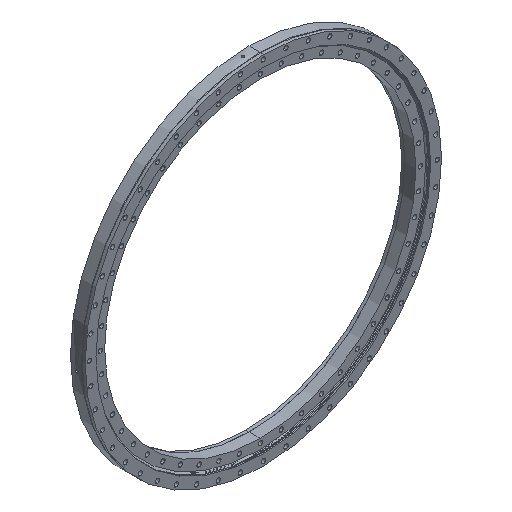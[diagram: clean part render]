
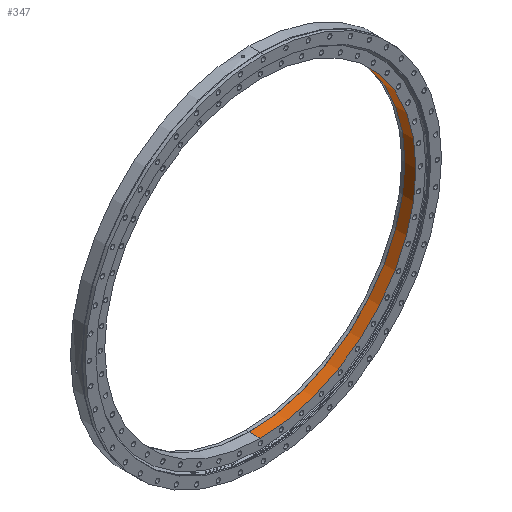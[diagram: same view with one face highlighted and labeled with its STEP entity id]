
A CAD part, isometric view. The second image highlights one B-rep face of the part: STEP entity #347.
In plain terms, the highlighted cylindrical face has radius 510 mm (diameter 1020 mm), a partial arc.
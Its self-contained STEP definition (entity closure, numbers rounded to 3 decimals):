
#89 = CARTESIAN_POINT ( 'NONE',  ( 0., 45.134, -510. ) ) ;
#326 = DIRECTION ( 'NONE',  ( 0., -1., 0. ) ) ;
#347 = ADVANCED_FACE ( 'NONE', ( #8019 ), #8932, .F. ) ;
#605 = VERTEX_POINT ( 'NONE', #6110 ) ;
#818 = CIRCLE ( 'NONE', #3433, 510. ) ;
#1289 = ORIENTED_EDGE ( 'NONE', *, *, #7085, .F. ) ;
#1389 = EDGE_CURVE ( 'NONE', #1890, #9651, #6279, .T. ) ;
#1412 = ORIENTED_EDGE ( 'NONE', *, *, #4447, .T. ) ;
#1890 = VERTEX_POINT ( 'NONE', #2886 ) ;
#1926 = AXIS2_PLACEMENT_3D ( 'NONE', #5919, #9047, #5874 ) ;
#1931 = DIRECTION ( 'NONE',  ( 0., -1., 0. ) ) ;
#2212 = VECTOR ( 'NONE', #2304, 1000. ) ;
#2304 = DIRECTION ( 'NONE',  ( 0., -1., 0. ) ) ;
#2574 = CARTESIAN_POINT ( 'NONE',  ( 0., 45.134, 0. ) ) ;
#2613 = CARTESIAN_POINT ( 'NONE',  ( 0., 0., 0. ) ) ;
#2886 = CARTESIAN_POINT ( 'NONE',  ( 0., 45.134, 510. ) ) ;
#3134 = VECTOR ( 'NONE', #7636, 1000. ) ;
#3380 = DIRECTION ( 'NONE',  ( 0., 0., -1. ) ) ;
#3407 = CIRCLE ( 'NONE', #1926, 510. ) ;
#3433 = AXIS2_PLACEMENT_3D ( 'NONE', #2574, #326, #5678 ) ;
#3455 = ORIENTED_EDGE ( 'NONE', *, *, #9042, .T. ) ;
#3618 = LINE ( 'NONE', #6924, #3134 ) ;
#4447 = EDGE_CURVE ( 'NONE', #605, #9651, #3407, .T. ) ;
#4529 = EDGE_LOOP ( 'NONE', ( #5347, #1289, #3455, #1412 ) ) ;
#5060 = VERTEX_POINT ( 'NONE', #89 ) ;
#5347 = ORIENTED_EDGE ( 'NONE', *, *, #1389, .F. ) ;
#5478 = CARTESIAN_POINT ( 'NONE',  ( 0., 9.134, 510. ) ) ;
#5678 = DIRECTION ( 'NONE',  ( 0., 0., -1. ) ) ;
#5874 = DIRECTION ( 'NONE',  ( 0., 0., -1. ) ) ;
#5919 = CARTESIAN_POINT ( 'NONE',  ( 0., 9.134, 0. ) ) ;
#5973 = AXIS2_PLACEMENT_3D ( 'NONE', #2613, #1931, #3380 ) ;
#6110 = CARTESIAN_POINT ( 'NONE',  ( 0., 9.134, -510. ) ) ;
#6279 = LINE ( 'NONE', #6943, #2212 ) ;
#6924 = CARTESIAN_POINT ( 'NONE',  ( 0., 0., -510. ) ) ;
#6943 = CARTESIAN_POINT ( 'NONE',  ( 0., 0., 510. ) ) ;
#7085 = EDGE_CURVE ( 'NONE', #5060, #1890, #818, .T. ) ;
#7636 = DIRECTION ( 'NONE',  ( 0., -1., 0. ) ) ;
#8019 = FACE_OUTER_BOUND ( 'NONE', #4529, .T. ) ;
#8932 = CYLINDRICAL_SURFACE ( 'NONE', #5973, 510. ) ;
#9042 = EDGE_CURVE ( 'NONE', #5060, #605, #3618, .T. ) ;
#9047 = DIRECTION ( 'NONE',  ( 0., -1., 0. ) ) ;
#9651 = VERTEX_POINT ( 'NONE', #5478 ) ;
